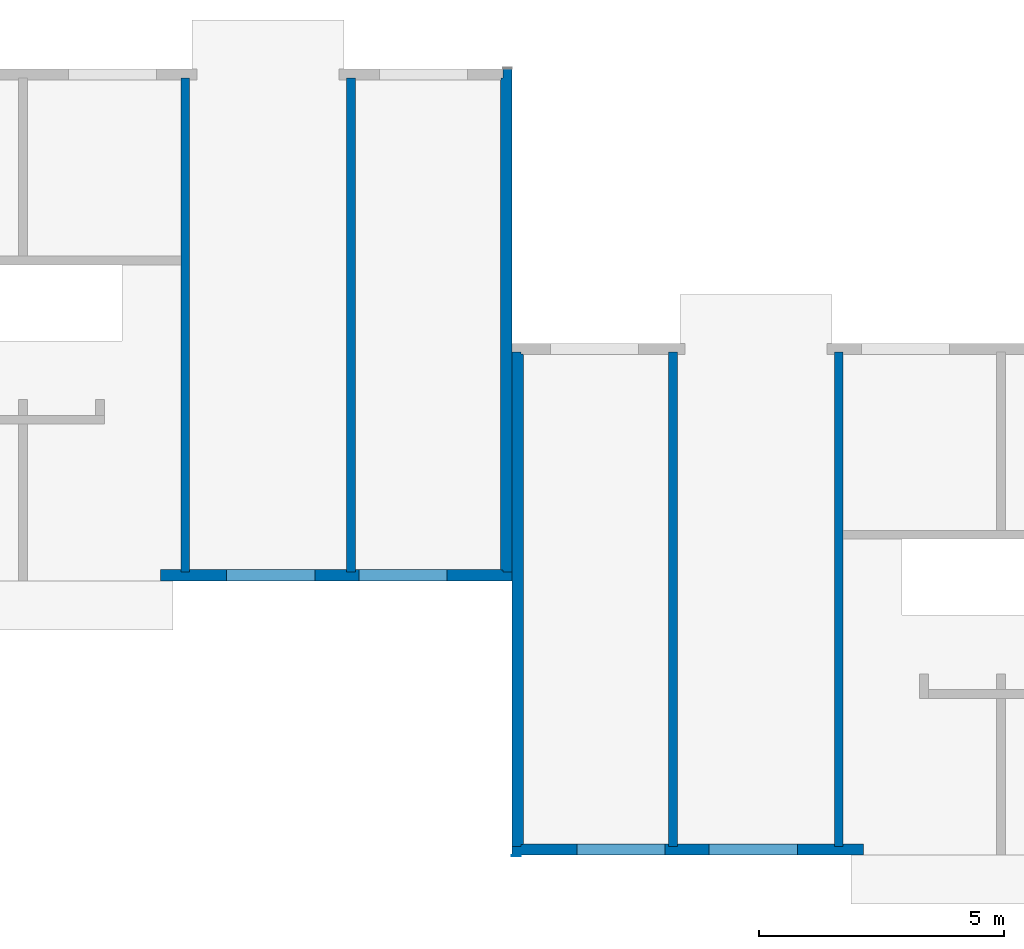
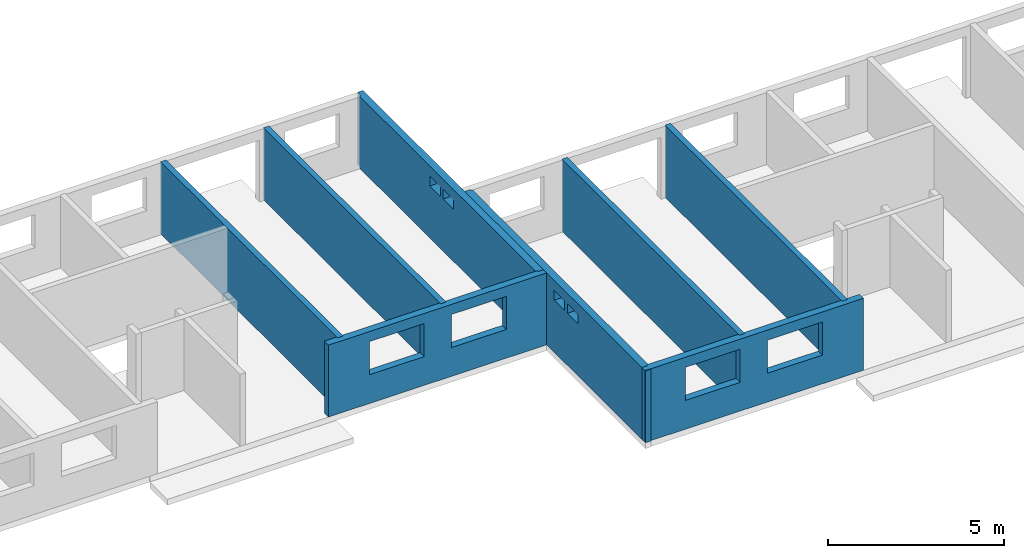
# One storey, part 7 of 9: 9 walls, 8 openings.
"""IFC2X3 building model written with IfcOpenShell, lengths in millimetres."""

from ifc_helpers import new_model, entity, si_unit, converted_unit, frame, frame_2d, origin, origin_with_axes, place, context, subcontext, project, spatial, polyline, rectangle, outline, extrude, material, layer, layer_set, layer_usage, element, save


model = new_model("IFC2X3")

# Units and contexts
model_context = context("Model", 3, precision=1e-05, world=origin())
plan_context = context("Plan", 3, precision=1e-05, world=origin())
body_context = subcontext(model_context, "Body", "Model", "MODEL_VIEW")
ifc_project = project(units=[si_unit("LENGTHUNIT", "METRE", prefix="MILLI"), converted_unit("PLANEANGLEUNIT", "DEGREE", entity("IfcPlaneAngleMeasure", 0.0174532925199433), si_unit("PLANEANGLEUNIT", "RADIAN"), dimensions=[0, 0, 0, 0, 0, 0, 0]), si_unit("AREAUNIT", "SQUARE_METRE"), si_unit("VOLUMEUNIT", "CUBIC_METRE")], contexts=[model_context, plan_context])

# Building, storey
building_placement = place(None, origin())
building = spatial("IfcBuilding", under=ifc_project, at=building_placement, Name="Bâtiment", CompositionType="ELEMENT")
storey_placement = place(building_placement, frame((0.0, 0.0, 2700.0), z_axis=(0.0, 0.0, 1.0), x_axis=(1.0, 0.0, 0.0)))
storey = spatial("IfcBuildingStorey", under=building, at=storey_placement, Name="r+1", CompositionType="ELEMENT", Elevation=2700.0)

# Wall, openings
ifc_material_1 = material(Name="moellons")
ifc_layer_1 = layer(ifc_material_1, 180.0)
ifc_material_2 = material(Name="briquettes")
ifc_layer_2 = layer(ifc_material_2, 40.0)
ifc_material_3 = material(Name="enduit platre")
ifc_layer_3 = layer(ifc_material_3, 10.0)
ifc_layer_set_1 = layer_set([ifc_layer_1, ifc_layer_2, ifc_layer_3])
ifc_layer_usage_1 = layer_usage(ifc_layer_set_1, "AXIS2", "POSITIVE", 0.0)
wall_1_placement = place(storey_placement, frame((39699.99999999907, 200.0775509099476, 0.0), z_axis=(0.0, 0.0, 1.0), x_axis=(0.0, 1.0, 0.0)))
wall_1 = element("IfcWallStandardCase", 1, at=wall_1_placement, inside=storey, material=ifc_layer_usage_1, context=body_context, shape_type="SweptSolid", body=[
    extrude(outline(polyline([(0.0, 0.0), (10270.00021457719, 0.0), (10270.00021457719, 180.0), (10090.00021457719, 180.0), (10090.00021457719, 220.0), (10050.00021457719, 220.0), (10050.00021457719, 230.0), (50.0, 230.0), (50.0, 220.0), (40.0, 220.0), (40.0, 180.0), (0.0, 180.0), (0.0, 0.0)])), origin_with_axes(), (0.0, 0.0, 1.0), 2500.0),
])
opening_1_placement = place(wall_1_placement, frame((5470.000214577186, 0.0, 1810.0), z_axis=(0.0, 1.0, 0.0), x_axis=(0.0, 0.0, 1.0)))
element("IfcOpeningElement", 2, at=opening_1_placement, cuts=wall_1, Name="Baie de fenêtre", ObjectType="Opening", context=body_context, shape_type="SweptSolid", body=[
    extrude(rectangle(XDim=340.0, YDim=600.0, at=frame_2d((170.0, 300.0), x_axis=(1.0, 0.0))), origin_with_axes(), (0.0, 0.0, 1.0), 230.0),
])
opening_2_placement = place(wall_1_placement, frame((4720.000214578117, 0.0, 1810.0), z_axis=(0.0, 1.0, 0.0), x_axis=(0.0, 0.0, 1.0)))
element("IfcOpeningElement", 3, at=opening_2_placement, cuts=wall_1, Name="Baie de fenêtre", ObjectType="Opening", context=body_context, shape_type="SweptSolid", body=[
    extrude(rectangle(XDim=340.0, YDim=600.0, at=frame_2d((170.0, 300.0), x_axis=(1.0, 0.0))), origin_with_axes(), (0.0, 0.0, 1.0), 230.0),
])

# Walls
ifc_material_4 = material(Name="moellons")
ifc_layer_4 = layer(ifc_material_4, 180.0)
ifc_layer_set_2 = layer_set([ifc_layer_4])
ifc_layer_usage_2 = layer_usage(ifc_layer_set_2, "AXIS2", "POSITIVE", 0.0)
wall_2_placement = place(storey_placement, frame((33119.99999999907, 200.077550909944, 0.0), z_axis=(0.0, 0.0, 1.0), x_axis=(0.0, 1.0, 0.0)))
element("IfcWallStandardCase", 4, at=wall_2_placement, inside=storey, material=ifc_layer_usage_2, context=body_context, shape_type="SweptSolid", body=[
    extrude(rectangle(XDim=10090.00021457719, YDim=180.0, at=frame_2d((5045.000107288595, 90.0), x_axis=(1.0, 0.0))), origin_with_axes(), (0.0, 0.0, 1.0), 2500.0),
])
ifc_material_5 = material(Name="moellons")
ifc_layer_5 = layer(ifc_material_5, 180.0)
ifc_layer_set_3 = layer_set([ifc_layer_5])
ifc_layer_usage_3 = layer_usage(ifc_layer_set_3, "AXIS2", "POSITIVE", 0.0)
wall_3_placement = place(storey_placement, frame((36499.99999999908, 200.0775509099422, 0.0), z_axis=(0.0, 0.0, 1.0), x_axis=(0.0, 1.0, 0.0)))
element("IfcWallStandardCase", 5, at=wall_3_placement, inside=storey, material=ifc_layer_usage_3, context=body_context, shape_type="SweptSolid", body=[
    extrude(rectangle(XDim=10090.00021457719, YDim=180.0, at=frame_2d((5045.000107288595, 90.0), x_axis=(1.0, 0.0))), origin_with_axes(), (0.0, 0.0, 1.0), 2500.0),
])
ifc_material_6 = material(Name="moellons")
ifc_layer_6 = layer(ifc_material_6, 20.0775509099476)
ifc_layer_set_4 = layer_set([ifc_layer_6])
ifc_layer_usage_4 = layer_usage(ifc_layer_set_4, "AXIS2", "POSITIVE", 0.0)
wall_4_placement = place(storey_placement, frame((39699.99999999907, -5579.922449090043, 0.0), z_axis=(0.0, 0.0, 1.0), x_axis=(1.0, 0.0, 0.0)))
element("IfcWallStandardCase", 6, at=wall_4_placement, inside=storey, material=ifc_layer_usage_4, context=body_context, shape_type="SweptSolid", body=[
    extrude(rectangle(XDim=180.0, YDim=20.0775509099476, at=frame_2d((90.0, 10.0387754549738), x_axis=(1.0, 0.0))), frame((0.0, -20.0775509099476, 0.0), z_axis=(0.0, 0.0, 1.0), x_axis=(1.0, 0.0, 0.0)), (0.0, 0.0, 1.0), 2500.0),
])
ifc_material_7 = material(Name="moellons")
ifc_layer_7 = layer(ifc_material_7, 180.0)
ifc_layer_set_5 = layer_set([ifc_layer_7])
ifc_layer_usage_5 = layer_usage(ifc_layer_set_5, "AXIS2", "POSITIVE", 0.0)
wall_5_placement = place(storey_placement, frame((43079.99999999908, -5399.922449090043, 0.0), z_axis=(0.0, 0.0, 1.0), x_axis=(0.0, 1.0, 0.0)))
element("IfcWallStandardCase", 7, at=wall_5_placement, inside=storey, material=ifc_layer_usage_5, context=body_context, shape_type="SweptSolid", body=[
    extrude(rectangle(XDim=10090.00021457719, YDim=180.0, at=frame_2d((5045.000107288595, 90.0), x_axis=(1.0, 0.0))), origin_with_axes(), (0.0, 0.0, 1.0), 2500.0),
])
ifc_material_8 = material(Name="moellons")
ifc_layer_8 = layer(ifc_material_8, 180.0)
ifc_layer_set_6 = layer_set([ifc_layer_8])
ifc_layer_usage_6 = layer_usage(ifc_layer_set_6, "AXIS2", "POSITIVE", 0.0)
wall_6_placement = place(storey_placement, frame((46459.99999999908, -5399.922449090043, 0.0), z_axis=(0.0, 0.0, 1.0), x_axis=(0.0, 1.0, 0.0)))
element("IfcWallStandardCase", 8, at=wall_6_placement, inside=storey, material=ifc_layer_usage_6, context=body_context, shape_type="SweptSolid", body=[
    extrude(rectangle(XDim=10090.00021457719, YDim=180.0, at=frame_2d((5045.000107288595, 90.0), x_axis=(1.0, 0.0))), origin_with_axes(), (0.0, 0.0, 1.0), 2500.0),
])

# Wall, openings
ifc_material_9 = material(Name="moellons")
ifc_layer_9 = layer(ifc_material_9, 180.0)
ifc_material_10 = material(Name="briquettes")
ifc_layer_10 = layer(ifc_material_10, 40.0)
ifc_material_11 = material(Name="enduit platre")
ifc_layer_11 = layer(ifc_material_11, 10.0)
ifc_layer_set_7 = layer_set([ifc_layer_9, ifc_layer_10, ifc_layer_11])
ifc_layer_usage_7 = layer_usage(ifc_layer_set_7, "AXIS2", "POSITIVE", 0.0)
wall_7_placement = place(storey_placement, frame((39699.99999999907, 4690.077765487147, 0.0), z_axis=(0.0, 0.0, 1.0), x_axis=(0.0, -1.0, 0.0)))
wall_7 = element("IfcWallStandardCase", 9, at=wall_7_placement, inside=storey, material=ifc_layer_usage_7, context=body_context, shape_type="SweptSolid", body=[
    extrude(outline(polyline([(0.0, 0.0), (10090.00021457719, 0.0), (10090.00021457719, 180.0), (10050.00021457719, 180.0), (10050.00021457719, 220.0), (10040.00021457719, 220.0), (10040.00021457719, 230.0), (50.0, 230.0), (50.0, 220.0), (40.0, 220.0), (40.0, 180.0), (0.0, 180.0), (0.0, 0.0)])), origin_with_axes(), (0.0, 0.0, 1.0), 2500.0),
])
opening_3_placement = place(wall_7_placement, frame((5845.00021457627, 0.0, 1810.0), z_axis=(0.0, 1.0, 0.0), x_axis=(0.0, 0.0, 1.0)))
element("IfcOpeningElement", 10, at=opening_3_placement, cuts=wall_7, Name="Baie de fenêtre", ObjectType="Opening", context=body_context, shape_type="SweptSolid", body=[
    extrude(rectangle(XDim=340.0, YDim=600.0, at=frame_2d((170.0, 300.0), x_axis=(1.0, 0.0))), origin_with_axes(), (0.0, 0.0, 1.0), 230.0),
])
opening_4_placement = place(wall_7_placement, frame((5093.000286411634, 0.0, 1810.0), z_axis=(0.0, 1.0, 0.0), x_axis=(0.0, 0.0, 1.0)))
element("IfcOpeningElement", 11, at=opening_4_placement, cuts=wall_7, Name="Baie de fenêtre", ObjectType="Opening", context=body_context, shape_type="SweptSolid", body=[
    extrude(rectangle(XDim=340.0, YDim=600.0, at=frame_2d((170.0, 300.0), x_axis=(1.0, 0.0))), origin_with_axes(), (0.0, 0.0, 1.0), 230.0),
])

ifc_material_12 = material(Name="moellons")
ifc_layer_12 = layer(ifc_material_12, 180.0)
ifc_material_13 = material(Name="briquettes")
ifc_layer_13 = layer(ifc_material_13, 40.0)
ifc_material_14 = material(Name="enduit platre")
ifc_layer_14 = layer(ifc_material_14, 10.0)
ifc_layer_set_8 = layer_set([ifc_layer_12, ifc_layer_13, ifc_layer_14])
ifc_layer_usage_8 = layer_usage(ifc_layer_set_8, "AXIS2", "POSITIVE", 0.0)
wall_8_placement = place(storey_placement, frame((32524.99999999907, 20.0775509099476, 0.0), z_axis=(0.0, 0.0, 1.0), x_axis=(1.0, 0.0, 0.0)))
wall_8 = element("IfcWallStandardCase", 12, at=wall_8_placement, inside=storey, material=ifc_layer_usage_8, context=body_context, shape_type="SweptSolid", body=[
    extrude(outline(polyline([(0.0, 0.0), (7174.999999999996, 0.0), (7174.999999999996, 180.0), (6994.999999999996, 180.0), (6994.999999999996, 220.0), (6954.999999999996, 220.0), (6954.999999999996, 230.0), (3975.000000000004, 230.0), (3975.000000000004, 180.0), (3795.000000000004, 180.0), (3795.000000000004, 230.0), (594.9999999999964, 230.0), (594.9999999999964, 180.0), (414.9999999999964, 180.0), (414.9999999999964, 230.0), (0.0, 230.0), (0.0, 0.0)])), origin_with_axes(), (0.0, 0.0, 1.0), 2500.0),
])
opening_5_placement = place(wall_8_placement, frame((1349.999999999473, 0.0, 1000.0), z_axis=(0.0, 1.0, 0.0), x_axis=(0.0, 0.0, 1.0)))
element("IfcOpeningElement", 13, at=opening_5_placement, cuts=wall_8, Name="Baie de fenêtre", ObjectType="Opening", context=body_context, shape_type="SweptSolid", body=[
    extrude(rectangle(XDim=1150.0, YDim=1800.0, at=frame_2d((575.0, 900.0), x_axis=(1.0, 0.0))), origin_with_axes(), (0.0, 0.0, 1.0), 230.0),
])
opening_6_placement = place(wall_8_placement, frame((4049.999999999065, 0.0, 1000.0), z_axis=(0.0, 1.0, 0.0), x_axis=(0.0, 0.0, 1.0)))
element("IfcOpeningElement", 14, at=opening_6_placement, cuts=wall_8, Name="Baie de fenêtre", ObjectType="Opening", context=body_context, shape_type="SweptSolid", body=[
    extrude(rectangle(XDim=1150.0, YDim=1800.0, at=frame_2d((575.0, 900.0), x_axis=(1.0, 0.0))), origin_with_axes(), (0.0, 0.0, 1.0), 230.0),
])

ifc_material_15 = material(Name="moellons")
ifc_layer_15 = layer(ifc_material_15, 180.0)
ifc_material_16 = material(Name="briquettes")
ifc_layer_16 = layer(ifc_material_16, 40.0)
ifc_material_17 = material(Name="enduit platre")
ifc_layer_17 = layer(ifc_material_17, 10.0)
ifc_layer_set_9 = layer_set([ifc_layer_15, ifc_layer_16, ifc_layer_17])
ifc_layer_usage_9 = layer_usage(ifc_layer_set_9, "AXIS2", "POSITIVE", 0.0)
wall_9_placement = place(storey_placement, frame((39699.99999999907, -5579.922449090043, -4.547473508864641e-13), z_axis=(0.0, 0.0, 1.0), x_axis=(1.0, 0.0, 0.0)))
wall_9 = element("IfcWallStandardCase", 15, at=wall_9_placement, inside=storey, material=ifc_layer_usage_9, context=body_context, shape_type="SweptSolid", body=[
    extrude(outline(polyline([(6760.000000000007, 230.0), (6760.000000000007, 180.0), (6580.000000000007, 180.0), (6580.000000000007, 230.0), (3380.000000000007, 230.0), (3380.000000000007, 180.0), (3200.000000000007, 180.0), (3200.000000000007, 230.0), (220.0, 230.0), (220.0, 220.0), (180.0, 220.0), (180.0, 180.0), (0.0, 180.0), (0.0, 0.0), (7175.000000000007, 0.0), (7175.000000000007, 230.0), (6760.000000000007, 230.0)])), origin_with_axes(), (0.0, 0.0, 1.0), 2500.000000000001),
])
opening_7_placement = place(wall_9_placement, frame((4024.999999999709, 0.0, 1000.000000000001), z_axis=(0.0, 1.0, 0.0), x_axis=(0.0, 0.0, 1.0)))
element("IfcOpeningElement", 16, at=opening_7_placement, cuts=wall_9, Name="Baie de fenêtre", ObjectType="Opening", context=body_context, shape_type="SweptSolid", body=[
    extrude(rectangle(XDim=1150.0, YDim=1800.0, at=frame_2d((575.0, 900.0), x_axis=(1.0, 0.0))), origin_with_axes(), (0.0, 0.0, 1.0), 230.0),
])
opening_8_placement = place(wall_9_placement, frame((1324.999999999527, 0.0, 1000.000000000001), z_axis=(0.0, 1.0, 0.0), x_axis=(0.0, 0.0, 1.0)))
element("IfcOpeningElement", 17, at=opening_8_placement, cuts=wall_9, Name="Baie de fenêtre", ObjectType="Opening", context=body_context, shape_type="SweptSolid", body=[
    extrude(rectangle(XDim=1150.0, YDim=1800.0, at=frame_2d((575.0, 900.0), x_axis=(1.0, 0.0))), origin_with_axes(), (0.0, 0.0, 1.0), 230.0),
])

save(model, "model.ifc")
